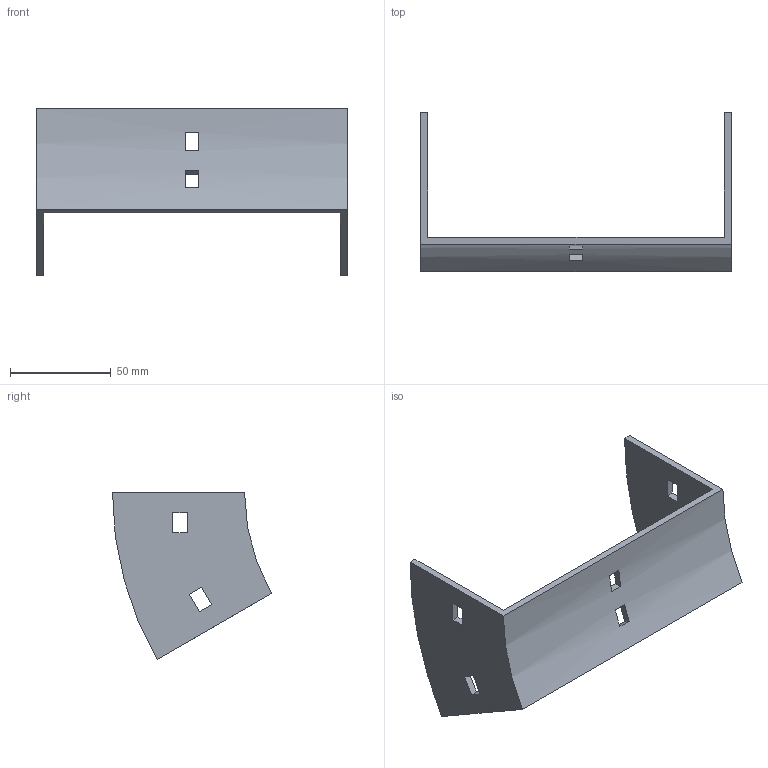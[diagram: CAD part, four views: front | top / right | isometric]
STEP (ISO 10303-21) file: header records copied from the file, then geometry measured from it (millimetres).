
FILE_DESCRIPTION (( 'STEP AP214' ), '1' );
FILE_NAME ('35B1H150.step', '2025-02-21T09:25:54', ( '' ), ( '' ), 'SwSTEP 2.0', 'SolidWorks 2023', '' );
FILE_SCHEMA (( 'AUTOMOTIVE_DESIGN' ));
Length unit declared in the file: millimetre
Products named in the file (1): 35B1H150
Bounding box: 154 x 78.9 x 82.75 mm (x, y, z)
Volume: 57884.7 mm3; surface area: 36319.2 mm2
Topology: 1 solids, 1 shells, 34 faces, 96 edges, 64 vertices
Faces by surface type: plane 30, cylinder 4
Entity records: 1143 total; most frequent: CARTESIAN_POINT 195, ORIENTED_EDGE 192, DIRECTION 182, EDGE_CURVE 96, LINE 80, VECTOR 80, VERTEX_POINT 64, AXIS2_PLACEMENT_3D 51
